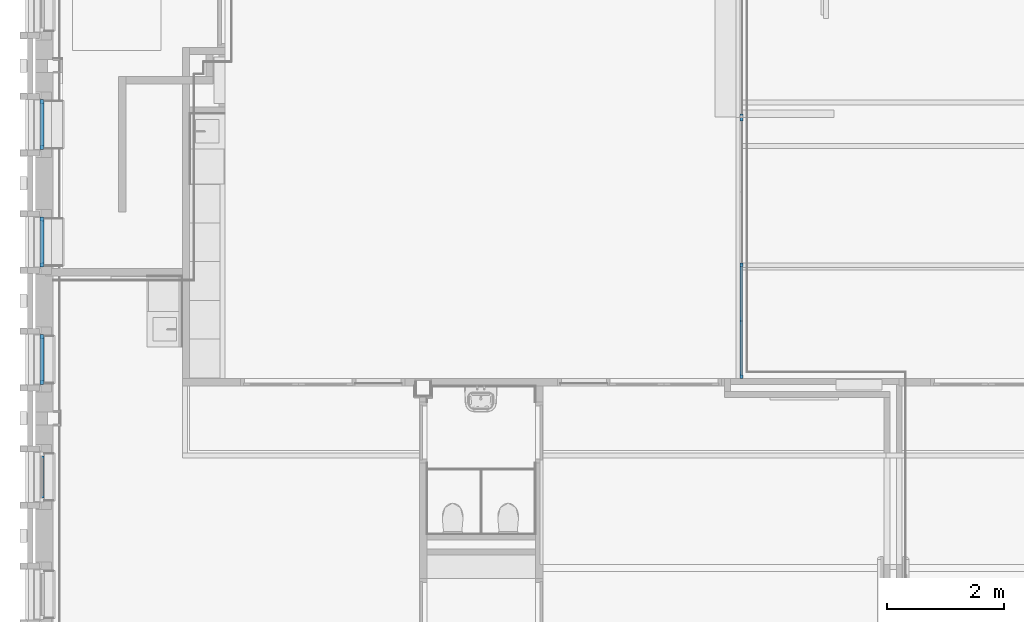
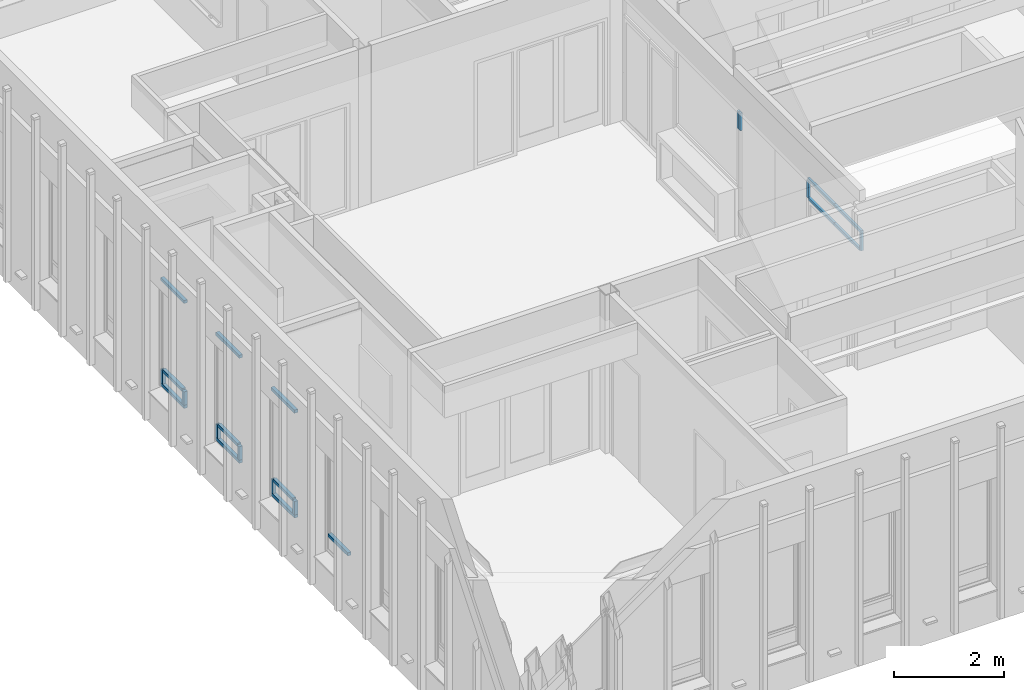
# One storey, part 9 of 118: 24 members, 5 elements without a shape of their own.
"""IFC2X3 building model written with IfcOpenShell, lengths in millimetres."""

from ifc_helpers import new_model, entity, si_unit, converted_unit, derived_unit, direction, frame, origin, origin_2d_with_axis, place, context, subcontext, project, spatial, rectangle, extrude, source, transform, mapped, material, material_list, type_object, type_shapes, element, aggregate, save


model = new_model("IFC2X3")

# Units and contexts
model_context = context("Model", 3, precision=0.01, world=origin(), true_north=direction((6.123031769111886e-17, 1.0)))
plan_context = context("Plan", 3, precision=0.01, world=origin(), true_north=direction((6.123031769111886e-17, 1.0)))
body_context = subcontext(model_context, "Body", "Model", "MODEL_VIEW")
ifc_project = project(units=[si_unit("LENGTHUNIT", "METRE", prefix="MILLI"), si_unit("AREAUNIT", "SQUARE_METRE"), si_unit("VOLUMEUNIT", "CUBIC_METRE"), converted_unit("PLANEANGLEUNIT", "DEGREE", entity("IfcRatioMeasure", 0.017453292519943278), si_unit("PLANEANGLEUNIT", "RADIAN"), dimensions=[0, 0, 0, 0, 0, 0, 0]), si_unit("MASSUNIT", "GRAM", prefix="KILO"), derived_unit("MASSDENSITYUNIT", [(si_unit("MASSUNIT", "GRAM", prefix="KILO"), 1), (si_unit("LENGTHUNIT", "METRE"), -3)]), derived_unit("IONCONCENTRATIONUNIT", [(si_unit("MASSUNIT", "GRAM", prefix="KILO"), 1), (si_unit("LENGTHUNIT", "METRE"), -3)]), derived_unit("MOMENTOFINERTIAUNIT", [(si_unit("LENGTHUNIT", "METRE"), 4)]), si_unit("TIMEUNIT", "SECOND"), si_unit("FREQUENCYUNIT", "HERTZ"), si_unit("THERMODYNAMICTEMPERATUREUNIT", "DEGREE_CELSIUS"), derived_unit("THERMALTRANSMITTANCEUNIT", [(si_unit("MASSUNIT", "GRAM", prefix="KILO"), 1), (si_unit("THERMODYNAMICTEMPERATUREUNIT", "KELVIN"), -1), (si_unit("TIMEUNIT", "SECOND"), -3)]), derived_unit("THERMALCONDUCTANCEUNIT", [(si_unit("MASSUNIT", "GRAM", prefix="KILO"), 1), (si_unit("THERMODYNAMICTEMPERATUREUNIT", "KELVIN"), -1), (si_unit("TIMEUNIT", "SECOND"), -3), (si_unit("LENGTHUNIT", "METRE"), 1)]), derived_unit("VOLUMETRICFLOWRATEUNIT", [(si_unit("LENGTHUNIT", "METRE"), 3), (si_unit("TIMEUNIT", "SECOND"), -1)]), derived_unit("MASSFLOWRATEUNIT", [(si_unit("MASSUNIT", "GRAM", prefix="KILO"), 1), (si_unit("TIMEUNIT", "SECOND"), -1)]), derived_unit("ROTATIONALFREQUENCYUNIT", [(si_unit("TIMEUNIT", "SECOND"), -1)]), si_unit("ELECTRICCURRENTUNIT", "AMPERE"), si_unit("ELECTRICVOLTAGEUNIT", "VOLT"), si_unit("POWERUNIT", "WATT"), si_unit("FORCEUNIT", "NEWTON", prefix="KILO"), si_unit("ILLUMINANCEUNIT", "LUX"), si_unit("LUMINOUSFLUXUNIT", "LUMEN"), si_unit("LUMINOUSINTENSITYUNIT", "CANDELA"), derived_unit("USERDEFINED", [(si_unit("MASSUNIT", "GRAM", prefix="KILO"), -1), (si_unit("LENGTHUNIT", "METRE"), -2), (si_unit("TIMEUNIT", "SECOND"), 3), (si_unit("LUMINOUSFLUXUNIT", "LUMEN"), 1)]), derived_unit("USERDEFINED", [(si_unit("MASSUNIT", "GRAM", prefix="KILO"), 1), (si_unit("TIMEUNIT", "SECOND"), -3), (si_unit("LENGTHUNIT", "METRE"), 3), (si_unit("ELECTRICCURRENTUNIT", "AMPERE"), -2)]), derived_unit("SOUNDPOWERUNIT", [(si_unit("MASSUNIT", "GRAM", prefix="KILO"), 1), (si_unit("TIMEUNIT", "SECOND"), -3), (si_unit("LENGTHUNIT", "METRE"), 2)]), derived_unit("SOUNDPRESSUREUNIT", [(si_unit("MASSUNIT", "GRAM", prefix="KILO"), 1), (si_unit("LENGTHUNIT", "METRE"), -1), (si_unit("TIMEUNIT", "SECOND"), -2)]), derived_unit("LINEARVELOCITYUNIT", [(si_unit("LENGTHUNIT", "METRE"), 1), (si_unit("TIMEUNIT", "SECOND"), -1)]), si_unit("PRESSUREUNIT", "PASCAL"), derived_unit("USERDEFINED", [(si_unit("MASSUNIT", "GRAM", prefix="KILO"), 1), (si_unit("LENGTHUNIT", "METRE"), -2), (si_unit("TIMEUNIT", "SECOND"), -2)]), derived_unit("LINEARFORCEUNIT", [(si_unit("MASSUNIT", "GRAM", prefix="KILO"), 1), (si_unit("TIMEUNIT", "SECOND"), -2)]), derived_unit("PLANARFORCEUNIT", [(si_unit("MASSUNIT", "GRAM", prefix="KILO"), 1), (si_unit("LENGTHUNIT", "METRE"), -1), (si_unit("TIMEUNIT", "SECOND"), -2)]), derived_unit("SPECIFICHEATCAPACITYUNIT", [(si_unit("THERMODYNAMICTEMPERATUREUNIT", "KELVIN"), -1), (si_unit("LENGTHUNIT", "METRE"), 2), (si_unit("TIMEUNIT", "SECOND"), -2)]), derived_unit("HEATINGVALUEUNIT", [(si_unit("LENGTHUNIT", "METRE"), 2), (si_unit("TIMEUNIT", "SECOND"), -2)]), derived_unit("VAPORPERMEABILITYUNIT", [(si_unit("LENGTHUNIT", "METRE"), -1), (si_unit("TIMEUNIT", "SECOND"), 1)]), derived_unit("DYNAMICVISCOSITYUNIT", [(si_unit("MASSUNIT", "GRAM", prefix="KILO"), 1), (si_unit("TIMEUNIT", "SECOND"), -1), (si_unit("LENGTHUNIT", "METRE"), -1)]), derived_unit("THERMALEXPANSIONCOEFFICIENTUNIT", [(si_unit("THERMODYNAMICTEMPERATUREUNIT", "KELVIN"), -1)]), derived_unit("MODULUSOFELASTICITYUNIT", [(si_unit("MASSUNIT", "GRAM", prefix="KILO"), 1), (si_unit("LENGTHUNIT", "METRE"), -1), (si_unit("TIMEUNIT", "SECOND"), -2)]), derived_unit("ISOTHERMALMOISTURECAPACITYUNIT", [(si_unit("LENGTHUNIT", "METRE"), 3), (si_unit("MASSUNIT", "GRAM", prefix="KILO"), -1)]), derived_unit("MOISTUREDIFFUSIVITYUNIT", [(si_unit("TIMEUNIT", "SECOND"), -1), (si_unit("LENGTHUNIT", "METRE"), 2)])], contexts=[model_context, plan_context])

# Site, building, storey
site_placement = place(None, origin())
site = spatial("IfcSite", under=ifc_project, at=site_placement, Name="Locatie", CompositionType="ELEMENT")
building_placement = place(site_placement, origin())
building = spatial("IfcBuilding", under=site, at=building_placement, Name="Bouwwerk", CompositionType="ELEMENT")
storey_placement = place(building_placement, frame((0.0, 0.0, 7800.0)))
storey = spatial("IfcBuildingStorey", under=building, at=storey_placement, Name="02 tweede verdieping", CompositionType="ELEMENT", Elevation=7800.000000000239)

# Curtain wall, member
curtain_wall_type_1 = type_object("IfcCurtainWallType", Name="Curtain Wall:NLRS_21_CW_Ontwerpkozijn_aluminium_RT72", PredefinedType="NOTDEFINED")
curtain_wall_1_placement = place(storey_placement, frame((0.0, 0.0, -7800.0)))
curtain_wall_1 = element("IfcCurtainWall", 1, at=curtain_wall_1_placement, inside=storey, type_object=curtain_wall_type_1, Name="Curtain Wall:NLRS_21_CW_Ontwerpkozijn_aluminium_RT72", ObjectType="Curtain Wall:NLRS_21_CW_Ontwerpkozijn_aluminium_RT72")
ifc_material_1 = material(Name="a_kozijn")
ifc_material_2 = material(Name="<Unnamed>")
ifc_material_list = material_list([ifc_material_2, ifc_material_1])
member_type_1 = type_object("IfcMemberType", Name="Rectangular Mullion:RT72_Vb_raam", PredefinedType="MULLION", material=ifc_material_list)
shared_shape_1 = source(origin(), body_context, "Body", "SweptSolid", [
    extrude(rectangle(XDim=71.99999999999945, YDim=68.00000000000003, at=origin_2d_with_axis()), frame((-34.0, -36.0, -850.0), z_axis=(0.0, 0.0, 1.0), x_axis=(0.0, -1.0, 0.0)), (0.0, 0.0, 1.0), 850.0000000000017),
])
type_shapes(member_type_1, [shared_shape_1])
member_1_placement = place(curtain_wall_1_placement, frame((9847.0, 18625.0, 10863.0), z_axis=(0.0, 1.0, 0.0), x_axis=(0.0, 0.0, 1.0)))
member_1 = element("IfcMember", 2, at=member_1_placement, type_object=member_type_1, material=ifc_material_1, Name="Rectangular Mullion:RT72_Vb_raam", ObjectType="Rectangular Mullion:RT72_Vb_raam", context=body_context, shape_type="MappedRepresentation", body=[
    mapped(shared_shape_1, transform((0.0, 0.0, 0.0), scale=1.0)),
])

curtain_wall_2_placement = place(storey_placement, frame((0.0, 0.0, -7800.0)))
curtain_wall_2 = element("IfcCurtainWall", 3, at=curtain_wall_2_placement, inside=storey, type_object=curtain_wall_type_1, Name="Curtain Wall:NLRS_21_CW_Ontwerpkozijn_aluminium_RT72", ObjectType="Curtain Wall:NLRS_21_CW_Ontwerpkozijn_aluminium_RT72")
member_2_placement = place(curtain_wall_2_placement, frame((9847.0, 20625.0, 10863.0), z_axis=(0.0, 1.0, 0.0), x_axis=(0.0, 0.0, 1.0)))
member_2 = element("IfcMember", 4, at=member_2_placement, type_object=member_type_1, material=ifc_material_1, Name="Rectangular Mullion:RT72_Vb_raam", ObjectType="Rectangular Mullion:RT72_Vb_raam", context=body_context, shape_type="MappedRepresentation", body=[
    mapped(shared_shape_1, transform((0.0, 0.0, 0.0), scale=1.0)),
])

curtain_wall_3_placement = place(storey_placement, frame((0.0, 0.0, -7800.0)))
curtain_wall_3 = element("IfcCurtainWall", 5, at=curtain_wall_3_placement, inside=storey, type_object=curtain_wall_type_1, Name="Curtain Wall:NLRS_21_CW_Ontwerpkozijn_aluminium_RT72", ObjectType="Curtain Wall:NLRS_21_CW_Ontwerpkozijn_aluminium_RT72")
member_3_placement = place(curtain_wall_3_placement, frame((9847.0, 22625.0, 10863.0), z_axis=(0.0, 1.0, 0.0), x_axis=(0.0, 0.0, 1.0)))
member_3 = element("IfcMember", 6, at=member_3_placement, type_object=member_type_1, material=ifc_material_1, Name="Rectangular Mullion:RT72_Vb_raam", ObjectType="Rectangular Mullion:RT72_Vb_raam", context=body_context, shape_type="MappedRepresentation", body=[
    mapped(shared_shape_1, transform((0.0, 0.0, 0.0), scale=1.0)),
])

# Member
member_type_2 = type_object("IfcMemberType", Name="Rectangular Mullion:RT72_Vo_raam", PredefinedType="MULLION", material=ifc_material_list)
shared_shape_2 = source(origin(), body_context, "Body", "SweptSolid", [
    extrude(rectangle(XDim=71.99999999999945, YDim=68.00000000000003, at=origin_2d_with_axis()), frame((-34.0, -36.0, -850.0), z_axis=(0.0, 0.0, 1.0), x_axis=(0.0, -1.0, 0.0)), (0.0, 0.0, 1.0), 850.0000000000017),
])
type_shapes(member_type_2, [shared_shape_2])
member_4_placement = place(curtain_wall_1_placement, frame((9847.0, 17775.0, 8473.0), z_axis=(0.0, -1.0, 0.0), x_axis=(0.0, 0.0, -1.0)))
member_4 = element("IfcMember", 7, at=member_4_placement, type_object=member_type_2, material=ifc_material_1, Name="Rectangular Mullion:RT72_Vo_raam", ObjectType="Rectangular Mullion:RT72_Vo_raam", context=body_context, shape_type="MappedRepresentation", body=[
    mapped(shared_shape_2, transform((0.0, 0.0, 0.0), scale=1.0)),
])

member_5_placement = place(curtain_wall_2_placement, frame((9847.0, 19775.0, 8473.0), z_axis=(0.0, -1.0, 0.0), x_axis=(0.0, 0.0, -1.0)))
member_5 = element("IfcMember", 8, at=member_5_placement, type_object=member_type_2, material=ifc_material_1, Name="Rectangular Mullion:RT72_Vo_raam", ObjectType="Rectangular Mullion:RT72_Vo_raam", context=body_context, shape_type="MappedRepresentation", body=[
    mapped(shared_shape_2, transform((0.0, 0.0, 0.0), scale=1.0)),
])

member_6_placement = place(curtain_wall_3_placement, frame((9847.0, 21775.0, 8473.0), z_axis=(0.0, -1.0, 0.0), x_axis=(0.0, 0.0, -1.0)))
member_6 = element("IfcMember", 9, at=member_6_placement, type_object=member_type_2, material=ifc_material_1, Name="Rectangular Mullion:RT72_Vo_raam", ObjectType="Rectangular Mullion:RT72_Vo_raam", context=body_context, shape_type="MappedRepresentation", body=[
    mapped(shared_shape_2, transform((0.0, 0.0, 0.0), scale=1.0)),
])

member_type_3 = type_object("IfcMemberType", Name="Rectangular Mullion:RT72_Hl_raam", PredefinedType="MULLION", material=ifc_material_list)
shared_shape_3 = source(origin(), body_context, "Body", "SweptSolid", [
    extrude(rectangle(XDim=71.99999999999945, YDim=68.00000000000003, at=origin_2d_with_axis()), frame((-34.0, -36.0, -301.0), z_axis=(0.0, 0.0, 1.0), x_axis=(0.0, -1.0, 0.0)), (0.0, 0.0, 1.0), 301.00000000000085),
])
type_shapes(member_type_3, [shared_shape_3])
member_7_placement = place(curtain_wall_1_placement, frame((9847.0, 18625.0, 8541.0), z_axis=(0.0, 0.0, -1.0), x_axis=(0.0, 1.0, 0.0)))
member_7 = element("IfcMember", 10, at=member_7_placement, type_object=member_type_3, material=ifc_material_1, Name="Rectangular Mullion:RT72_Hl_raam", ObjectType="Rectangular Mullion:RT72_Hl_raam", context=body_context, shape_type="MappedRepresentation", body=[
    mapped(shared_shape_3, transform((0.0, 0.0, 0.0), scale=1.0)),
])

member_8_placement = place(curtain_wall_2_placement, frame((9847.0, 20625.0, 8541.0), z_axis=(0.0, 0.0, -1.0), x_axis=(0.0, 1.0, 0.0)))
member_8 = element("IfcMember", 11, at=member_8_placement, type_object=member_type_3, material=ifc_material_1, Name="Rectangular Mullion:RT72_Hl_raam", ObjectType="Rectangular Mullion:RT72_Hl_raam", context=body_context, shape_type="MappedRepresentation", body=[
    mapped(shared_shape_3, transform((0.0, 0.0, 0.0), scale=1.0)),
])

member_9_placement = place(curtain_wall_3_placement, frame((9847.0, 22625.0, 8541.0), z_axis=(0.0, 0.0, -1.0), x_axis=(0.0, 1.0, 0.0)))
member_9 = element("IfcMember", 12, at=member_9_placement, type_object=member_type_3, material=ifc_material_1, Name="Rectangular Mullion:RT72_Hl_raam", ObjectType="Rectangular Mullion:RT72_Hl_raam", context=body_context, shape_type="MappedRepresentation", body=[
    mapped(shared_shape_3, transform((0.0, 0.0, 0.0), scale=1.0)),
])

member_type_4 = type_object("IfcMemberType", Name="Rectangular Mullion:RT72_Hr_raam", PredefinedType="MULLION", material=ifc_material_list)
shared_shape_4 = source(origin(), body_context, "Body", "SweptSolid", [
    extrude(rectangle(XDim=71.99999999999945, YDim=68.00000000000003, at=origin_2d_with_axis()), frame((-34.0, -36.0, -301.0), z_axis=(0.0, 0.0, 1.0), x_axis=(0.0, -1.0, 0.0)), (0.0, 0.0, 1.0), 301.00000000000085),
])
type_shapes(member_type_4, [shared_shape_4])
member_10_placement = place(curtain_wall_1_placement, frame((9847.0, 17775.0, 8842.0), z_axis=(0.0, 0.0, 1.0), x_axis=(0.0, -1.0, 0.0)))
member_10 = element("IfcMember", 13, at=member_10_placement, type_object=member_type_4, material=ifc_material_1, Name="Rectangular Mullion:RT72_Hr_raam", ObjectType="Rectangular Mullion:RT72_Hr_raam", context=body_context, shape_type="MappedRepresentation", body=[
    mapped(shared_shape_4, transform((0.0, 0.0, 0.0), scale=1.0)),
])

member_11_placement = place(curtain_wall_2_placement, frame((9847.0, 19775.0, 8842.0), z_axis=(0.0, 0.0, 1.0), x_axis=(0.0, -1.0, 0.0)))
member_11 = element("IfcMember", 14, at=member_11_placement, type_object=member_type_4, material=ifc_material_1, Name="Rectangular Mullion:RT72_Hr_raam", ObjectType="Rectangular Mullion:RT72_Hr_raam", context=body_context, shape_type="MappedRepresentation", body=[
    mapped(shared_shape_4, transform((0.0, 0.0, 0.0), scale=1.0)),
])

member_12_placement = place(curtain_wall_3_placement, frame((9847.0, 21775.0, 8842.0), z_axis=(0.0, 0.0, 1.0), x_axis=(0.0, -1.0, 0.0)))
member_12 = element("IfcMember", 15, at=member_12_placement, type_object=member_type_4, material=ifc_material_1, Name="Rectangular Mullion:RT72_Hr_raam", ObjectType="Rectangular Mullion:RT72_Hr_raam", context=body_context, shape_type="MappedRepresentation", body=[
    mapped(shared_shape_4, transform((0.0, 0.0, 0.0), scale=1.0)),
])

member_type_5 = type_object("IfcMemberType", Name="Rectangular Mullion:RT72_Vb_raam", PredefinedType="MULLION", material=ifc_material_list)
shared_shape_5 = source(origin(), body_context, "Body", "SweptSolid", [
    extrude(rectangle(XDim=71.99999999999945, YDim=68.00000000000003, at=origin_2d_with_axis()), frame((0.0, -36.0, -714.0), z_axis=(0.0, 0.0, 1.0), x_axis=(0.0, -1.0, 0.0)), (0.0, 0.0, 1.0), 714.0000000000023),
])
type_shapes(member_type_5, [shared_shape_5])
member_13_placement = place(curtain_wall_1_placement, frame((9847.0, 18557.0, 8842.0), z_axis=(0.0, 1.0, 0.0), x_axis=(0.0, 0.0, 1.0)))
member_13 = element("IfcMember", 16, at=member_13_placement, type_object=member_type_5, material=ifc_material_1, Name="Rectangular Mullion:RT72_Vb_raam", ObjectType="Rectangular Mullion:RT72_Vb_raam", context=body_context, shape_type="MappedRepresentation", body=[
    mapped(shared_shape_5, transform((0.0, 0.0, 0.0), scale=1.0)),
])

aggregate(curtain_wall_1, [member_1, member_4, member_7, member_10, member_13])

member_14_placement = place(curtain_wall_2_placement, frame((9847.0, 20557.0, 8842.0), z_axis=(0.0, 1.0, 0.0), x_axis=(0.0, 0.0, 1.0)))
member_14 = element("IfcMember", 17, at=member_14_placement, type_object=member_type_5, material=ifc_material_1, Name="Rectangular Mullion:RT72_Vb_raam", ObjectType="Rectangular Mullion:RT72_Vb_raam", context=body_context, shape_type="MappedRepresentation", body=[
    mapped(shared_shape_5, transform((0.0, 0.0, 0.0), scale=1.0)),
])

aggregate(curtain_wall_2, [member_2, member_5, member_8, member_11, member_14])

member_15_placement = place(curtain_wall_3_placement, frame((9847.0, 22557.0, 8842.0), z_axis=(0.0, 1.0, 0.0), x_axis=(0.0, 0.0, 1.0)))
member_15 = element("IfcMember", 18, at=member_15_placement, type_object=member_type_5, material=ifc_material_1, Name="Rectangular Mullion:RT72_Vb_raam", ObjectType="Rectangular Mullion:RT72_Vb_raam", context=body_context, shape_type="MappedRepresentation", body=[
    mapped(shared_shape_5, transform((0.0, 0.0, 0.0), scale=1.0)),
])

aggregate(curtain_wall_3, [member_3, member_6, member_9, member_12, member_15])

# Curtain wall, member
curtain_wall_4_placement = place(storey_placement, frame((0.0, 0.0, -7800.0)))
curtain_wall_4 = element("IfcCurtainWall", 19, at=curtain_wall_4_placement, inside=storey, type_object=curtain_wall_type_1, Name="Curtain Wall:NLRS_21_CW_Ontwerpkozijn_aluminium_RT72", ObjectType="Curtain Wall:NLRS_21_CW_Ontwerpkozijn_aluminium_RT72")
member_16_placement = place(curtain_wall_4_placement, frame((9847.0, 16557.0, 8842.0), z_axis=(0.0, 1.0, 0.0), x_axis=(0.0, 0.0, 1.0)))
member_16 = element("IfcMember", 20, at=member_16_placement, type_object=member_type_5, material=ifc_material_1, Name="Rectangular Mullion:RT72_Vb_raam", ObjectType="Rectangular Mullion:RT72_Vb_raam", context=body_context, shape_type="MappedRepresentation", body=[
    mapped(shared_shape_5, transform((0.0, 0.0, 0.0), scale=1.0)),
])
aggregate(curtain_wall_4, [member_16])

# Curtain wall, members
curtain_wall_type_2 = type_object("IfcCurtainWallType", Name="Curtain Wall:32_BDG_Jansen Economy 50", PredefinedType="NOTDEFINED")
curtain_wall_5_placement = place(storey_placement, frame((0.0, 0.0, -7800.0)))
curtain_wall_5 = element("IfcCurtainWall", 21, at=curtain_wall_5_placement, inside=storey, type_object=curtain_wall_type_2, Name="Curtain Wall:32_BDG_Jansen Economy 50", ObjectType="Curtain Wall:32_BDG_Jansen Economy 50")
ifc_material_3 = material(Name="h2_staal_gen")
member_type_6 = type_object("IfcMemberType", Name="Rectangular Mullion:CWM_Jansen Economy 50 bxh=50x60mm", PredefinedType="MULLION", material=ifc_material_3)
shared_shape_6 = source(origin(), body_context, "Body", "SweptSolid", [
    extrude(rectangle(XDim=50.0, YDim=60.0, at=origin_2d_with_axis()), frame((-30.0, 0.0, -387.49999999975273), z_axis=(0.0, 0.0, 1.0), x_axis=(0.0, -1.0, 0.0)), (0.0, 0.0, 1.0), 387.49999999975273),
])
type_shapes(member_type_6, [shared_shape_6])
member_17_placement = place(curtain_wall_5_placement, frame((21717.0, 17875.0, 10152.500000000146), z_axis=(0.0, 0.0, -1.0), x_axis=(0.0, -1.0, 0.0)))
member_17 = element("IfcMember", 22, at=member_17_placement, type_object=member_type_6, material=ifc_material_3, Name="Rectangular Mullion:CWM_Jansen Economy 50 bxh=50x60mm", ObjectType="Rectangular Mullion:CWM_Jansen Economy 50 bxh=50x60mm", context=body_context, shape_type="MappedRepresentation", body=[
    mapped(shared_shape_6, transform((0.0, 0.0, 0.0), scale=1.0)),
])
member_type_7 = type_object("IfcMemberType", Name="Rectangular Mullion:CWM_Jansen Economy 50 bxh=50x60mm", PredefinedType="MULLION", material=ifc_material_3)
shared_shape_7 = source(origin(), body_context, "Body", "SweptSolid", [
    extrude(rectangle(XDim=50.0, YDim=60.0, at=origin_2d_with_axis()), frame((0.0, 0.0, -387.49999999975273), z_axis=(0.0, 0.0, 1.0), x_axis=(0.0, -1.0, 0.0)), (0.0, 0.0, 1.0), 387.49999999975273),
])
type_shapes(member_type_7, [shared_shape_7])
member_18_placement = place(curtain_wall_5_placement, frame((21717.0, 19817.336886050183, 10152.500000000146), z_axis=(0.0, 0.0, -1.0), x_axis=(0.0, -1.0, 0.0)))
member_18 = element("IfcMember", 23, at=member_18_placement, type_object=member_type_7, material=ifc_material_3, Name="Rectangular Mullion:CWM_Jansen Economy 50 bxh=50x60mm", ObjectType="Rectangular Mullion:CWM_Jansen Economy 50 bxh=50x60mm", context=body_context, shape_type="MappedRepresentation", body=[
    mapped(shared_shape_7, transform((0.0, 0.0, 0.0), scale=1.0)),
])
member_19_placement = place(curtain_wall_5_placement, frame((21717.0, 22289.836885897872, 10152.500000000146), z_axis=(0.0, 0.0, -1.0), x_axis=(0.0, -1.0, 0.0)))
member_19 = element("IfcMember", 24, at=member_19_placement, type_object=member_type_7, material=ifc_material_3, Name="Rectangular Mullion:CWM_Jansen Economy 50 bxh=50x60mm", ObjectType="Rectangular Mullion:CWM_Jansen Economy 50 bxh=50x60mm", context=body_context, shape_type="MappedRepresentation", body=[
    mapped(shared_shape_7, transform((0.0, 0.0, 0.0), scale=1.0)),
])
member_20_placement = place(curtain_wall_5_placement, frame((21717.0, 22349.836885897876, 10152.500000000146), z_axis=(0.0, 0.0, -1.0), x_axis=(0.0, -1.0, 0.0)))
member_20 = element("IfcMember", 25, at=member_20_placement, type_object=member_type_7, material=ifc_material_3, Name="Rectangular Mullion:CWM_Jansen Economy 50 bxh=50x60mm", ObjectType="Rectangular Mullion:CWM_Jansen Economy 50 bxh=50x60mm", context=body_context, shape_type="MappedRepresentation", body=[
    mapped(shared_shape_7, transform((0.0, 0.0, 0.0), scale=1.0)),
])
member_type_8 = type_object("IfcMemberType", Name="Rectangular Mullion:CWM_Jansen Economy 50 bxh=50x60mm", PredefinedType="MULLION", material=ifc_material_3)
shared_shape_8 = source(origin(), body_context, "Body", "SweptSolid", [
    extrude(rectangle(XDim=50.0, YDim=60.0, at=origin_2d_with_axis()), frame((-30.0, 0.0, -985.0), z_axis=(0.0, 0.0, 1.0), x_axis=(0.0, -1.0, 0.0)), (0.0, 0.0, 1.0), 984.9999999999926),
])
type_shapes(member_type_8, [shared_shape_8])
member_21_placement = place(curtain_wall_5_placement, frame((21717.0, 17875.0, 10600.0), z_axis=(0.0, -1.0, 0.0), x_axis=(0.0, 0.0, 1.0)))
member_21 = element("IfcMember", 26, at=member_21_placement, type_object=member_type_8, material=ifc_material_3, Name="Rectangular Mullion:CWM_Jansen Economy 50 bxh=50x60mm", ObjectType="Rectangular Mullion:CWM_Jansen Economy 50 bxh=50x60mm", context=body_context, shape_type="MappedRepresentation", body=[
    mapped(shared_shape_8, transform((0.0, 0.0, 0.0), scale=1.0)),
])
member_type_9 = type_object("IfcMemberType", Name="Rectangular Mullion:CWM_Jansen Economy 50 bxh=50x60mm", PredefinedType="MULLION", material=ifc_material_3)
shared_shape_9 = source(origin(), body_context, "Body", "SweptSolid", [
    extrude(rectangle(XDim=50.0, YDim=60.0, at=origin_2d_with_axis()), frame((-30.0, 0.0, -957.3368863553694), z_axis=(0.0, 0.0, 1.0), x_axis=(0.0, -1.0, 0.0)), (0.0, 0.0, 1.0), 957.3368863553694),
])
type_shapes(member_type_9, [shared_shape_9])
member_22_placement = place(curtain_wall_5_placement, frame((21717.0, 18860.0, 10600.0), z_axis=(0.0, -1.0, 0.0), x_axis=(0.0, 0.0, 1.0)))
member_22 = element("IfcMember", 27, at=member_22_placement, type_object=member_type_9, material=ifc_material_3, Name="Rectangular Mullion:CWM_Jansen Economy 50 bxh=50x60mm", ObjectType="Rectangular Mullion:CWM_Jansen Economy 50 bxh=50x60mm", context=body_context, shape_type="MappedRepresentation", body=[
    mapped(shared_shape_9, transform((0.0, 0.0, 0.0), scale=1.0)),
])
member_type_10 = type_object("IfcMemberType", Name="Rectangular Mullion:CWM_Jansen Economy 50 bxh=50x60mm", PredefinedType="MULLION", material=ifc_material_3)
shared_shape_10 = source(origin(), body_context, "Body", "SweptSolid", [
    extrude(rectangle(XDim=50.0, YDim=60.0, at=origin_2d_with_axis()), frame((0.0, 0.0, -924.9631141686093), z_axis=(0.0, 0.0, 1.0), x_axis=(0.0, -1.0, 0.0)), (0.0, 0.0, 1.0), 924.9631141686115),
])
type_shapes(member_type_10, [shared_shape_10])
member_23_placement = place(curtain_wall_5_placement, frame((21717.0, 17935.0, 10152.500000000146), z_axis=(0.0, -1.0, 0.0), x_axis=(0.0, 0.0, 1.0)))
member_23 = element("IfcMember", 28, at=member_23_placement, type_object=member_type_10, material=ifc_material_3, Name="Rectangular Mullion:CWM_Jansen Economy 50 bxh=50x60mm", ObjectType="Rectangular Mullion:CWM_Jansen Economy 50 bxh=50x60mm", context=body_context, shape_type="MappedRepresentation", body=[
    mapped(shared_shape_10, transform((0.0, 0.0, 0.0), scale=1.0)),
])
member_type_11 = type_object("IfcMemberType", Name="Rectangular Mullion:CWM_Jansen Economy 50 bxh=50x60mm", PredefinedType="MULLION", material=ifc_material_3)
shared_shape_11 = source(origin(), body_context, "Body", "SweptSolid", [
    extrude(rectangle(XDim=50.0, YDim=60.0, at=origin_2d_with_axis()), frame((0.0, 0.0, -927.3368863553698), z_axis=(0.0, 0.0, 1.0), x_axis=(0.0, -1.0, 0.0)), (0.0, 0.0, 1.0), 927.3368863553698),
])
type_shapes(member_type_11, [shared_shape_11])
member_24_placement = place(curtain_wall_5_placement, frame((21717.0, 18860.0, 10152.500000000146), z_axis=(0.0, -1.0, 0.0), x_axis=(0.0, 0.0, 1.0)))
member_24 = element("IfcMember", 29, at=member_24_placement, type_object=member_type_11, material=ifc_material_3, Name="Rectangular Mullion:CWM_Jansen Economy 50 bxh=50x60mm", ObjectType="Rectangular Mullion:CWM_Jansen Economy 50 bxh=50x60mm", context=body_context, shape_type="MappedRepresentation", body=[
    mapped(shared_shape_11, transform((0.0, 0.0, 0.0), scale=1.0)),
])
aggregate(curtain_wall_5, [member_21, member_22, member_17, member_23, member_18, member_24, member_19, member_20])

save(model, "model.ifc")
